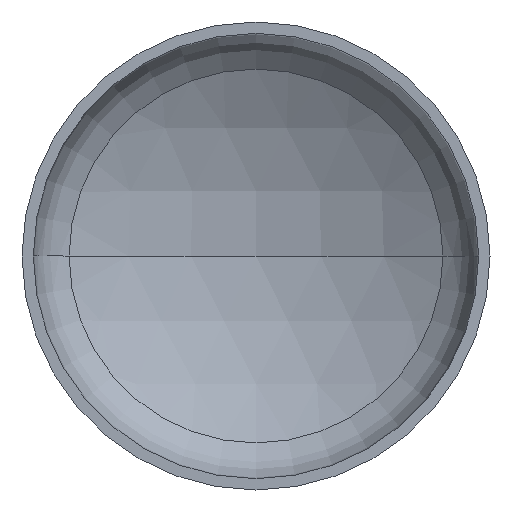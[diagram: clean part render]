
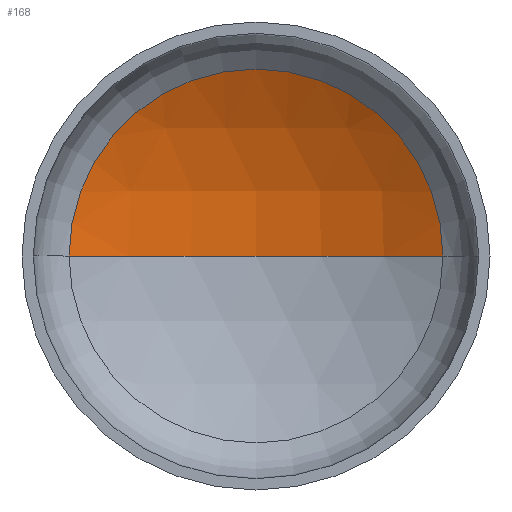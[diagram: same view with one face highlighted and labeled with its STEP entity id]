
A CAD part, front view. The second image highlights one B-rep face of the part: STEP entity #168.
In plain terms, the highlighted spherical face has radius 1520 mm.
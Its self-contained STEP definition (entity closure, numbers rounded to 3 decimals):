
#6 = AXIS2_PLACEMENT_3D ( 'NONE', #156, #162, #119 ) ;
#26 = EDGE_LOOP ( 'NONE', ( #351, #90, #31 ) ) ;
#31 = ORIENTED_EDGE ( 'NONE', *, *, #152, .T. ) ;
#37 = AXIS2_PLACEMENT_3D ( 'NONE', #217, #211, #285 ) ;
#39 = AXIS2_PLACEMENT_3D ( 'NONE', #266, #299, #291 ) ;
#40 = AXIS2_PLACEMENT_3D ( 'NONE', #234, #228, #233 ) ;
#66 = VERTEX_POINT ( 'NONE', #241 ) ;
#90 = ORIENTED_EDGE ( 'NONE', *, *, #160, .T. ) ;
#99 = FACE_OUTER_BOUND ( 'NONE', #26, .T. ) ;
#119 = DIRECTION ( 'NONE',  ( 1., 0., 0. ) ) ;
#121 = VERTEX_POINT ( 'NONE', #237 ) ;
#152 = EDGE_CURVE ( 'NONE', #121, #408, #385, .T. ) ;
#156 = CARTESIAN_POINT ( 'NONE',  ( 0., -925.788, 0. ) ) ;
#160 = EDGE_CURVE ( 'NONE', #66, #121, #272, .T. ) ;
#162 = DIRECTION ( 'NONE',  ( 0., 0., 1. ) ) ;
#168 = ADVANCED_FACE ( 'NONE', ( #99 ), #377, .F. ) ;
#191 = CARTESIAN_POINT ( 'NONE',  ( -758.764, 391.283, 0. ) ) ;
#211 = DIRECTION ( 'NONE',  ( 0., 0., -1. ) ) ;
#217 = CARTESIAN_POINT ( 'NONE',  ( 0., -925.788, 0. ) ) ;
#228 = DIRECTION ( 'NONE',  ( 0., -1., 0. ) ) ;
#233 = DIRECTION ( 'NONE',  ( 1., 0., 0. ) ) ;
#234 = CARTESIAN_POINT ( 'NONE',  ( 0., 391.283, 0. ) ) ;
#237 = CARTESIAN_POINT ( 'NONE',  ( 758.764, 391.283, 0. ) ) ;
#241 = CARTESIAN_POINT ( 'NONE',  ( 0., 594.212, 0. ) ) ;
#266 = CARTESIAN_POINT ( 'NONE',  ( 0., -925.788, 0. ) ) ;
#272 = CIRCLE ( 'NONE', #39, 1520. ) ;
#285 = DIRECTION ( 'NONE',  ( -1., 0., 0. ) ) ;
#291 = DIRECTION ( 'NONE',  ( -1., 0., 0. ) ) ;
#299 = DIRECTION ( 'NONE',  ( 0., 0., -1. ) ) ;
#300 = CIRCLE ( 'NONE', #6, 1520. ) ;
#351 = ORIENTED_EDGE ( 'NONE', *, *, #363, .F. ) ;
#363 = EDGE_CURVE ( 'NONE', #66, #408, #300, .T. ) ;
#377 = SPHERICAL_SURFACE ( 'NONE', #37, 1520. ) ;
#385 = CIRCLE ( 'NONE', #40, 758.764 ) ;
#408 = VERTEX_POINT ( 'NONE', #191 ) ;
